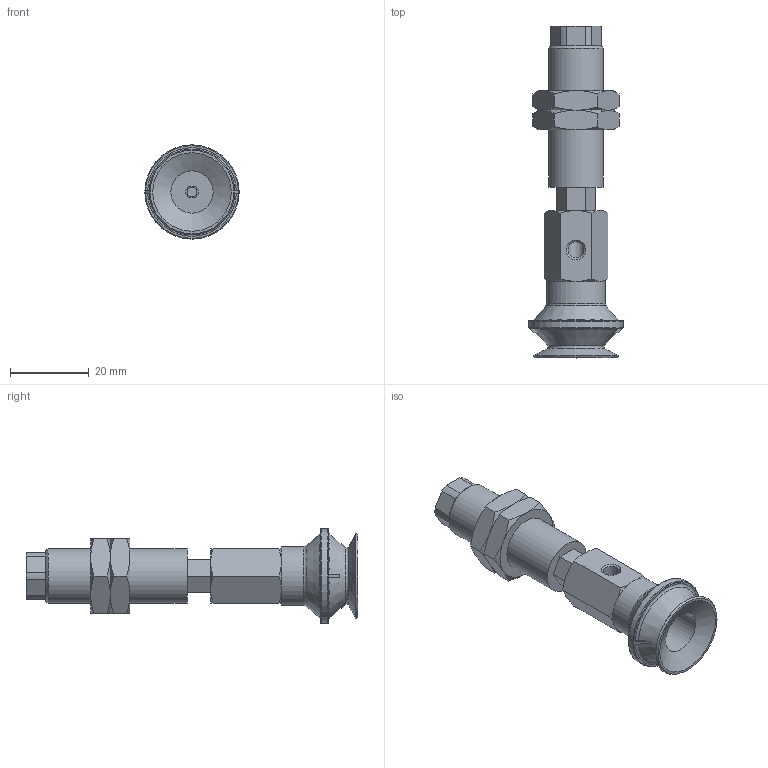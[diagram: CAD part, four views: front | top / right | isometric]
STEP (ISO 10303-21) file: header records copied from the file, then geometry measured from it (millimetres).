
FILE_DESCRIPTION(('STEP AP203'),'1');
FILE_NAME('.stp','2025-04-02T01:47:06',(' '),(' '),'Spatial InterOp 3D',' ',' ');
FILE_SCHEMA(('CONFIG_CONTROL_DESIGN'));
Length unit declared in the file: millimetre
Products named in the file (7): BNABPBYH-20-6-※; Adapter20-T-NAPB; CONNECTOR-20-6-PB; Nut-20-S-PB; NAPBTH-20-6-FBODY; NAPBTH-20-6-MBODY; BPBG-20-※
Assembly tree (7 placements, depth 2):
  BNABPBYH-20-6-※
    Adapter20-T-NAPB
    CONNECTOR-20-6-PB
    Nut-20-S-PB  x2
    NAPBTH-20-6-FBODY
    NAPBTH-20-6-MBODY
    BPBG-20-※
Bounding box: 24 x 84.5 x 24 mm (x, y, z)
Volume: 14320.4 mm3; surface area: 11051 mm2
Topology: 7 solids, 7 shells, 165 faces, 370 edges, 228 vertices
Faces by surface type: plane 79, cone 56, cylinder 21, torus 9
Full cylindrical faces by diameter (mm): 2.5 x1, 3 x1, 4.134 x3, 4.6 x1, 5 x2, 10.8 x1, 11 x1, 12.917 x2, 14 x1, 15 x1, 24 x1
Entity records: 4320 total; most frequent: CARTESIAN_POINT 984, DIRECTION 628, ORIENTED_EDGE 554, EDGE_CURVE 277, AXIS2_PLACEMENT_3D 253, EDGE_LOOP 198, VERTEX_POINT 191, FACE_OUTER_BOUND 163
